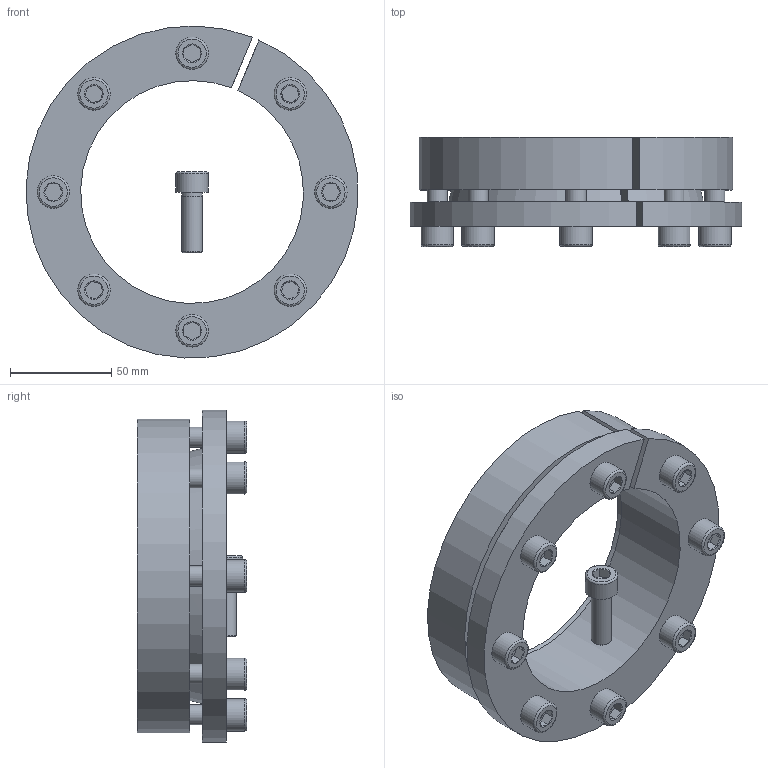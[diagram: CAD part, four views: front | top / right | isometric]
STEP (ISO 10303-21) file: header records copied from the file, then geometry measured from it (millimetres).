
FILE_DESCRIPTION( ( 'Unknown' ), '1' );
FILE_NAME( 'C:/Dokumente und Einstellungen/Sven/Desktop/homepage/cad - homepage/KBS16/KBS 16 - 110 x 155.stp', 'Unknown', ( 'Unknown' ), ( 'Unknown' ), 'XStep 1.0', 'Unknown', ' ' );
FILE_SCHEMA( ( 'automotive_design' ) );
Length unit declared in the file: millimetre
Products named in the file (3): Assem1; KBS 16 - 110 x 155; ISO EN DIN 4762 M10x30
Bounding box: 163.82 x 54 x 163.89 mm (x, y, z)
Volume: 778676.6 mm3; surface area: 181142.2 mm2
Topology: 11 solids, 11 shells, 281 faces, 557 edges, 334 vertices
Faces by surface type: plane 122, cylinder 74, cone 67, torus 18
Full cylindrical faces by diameter (mm): 9 x9, 10 x50, 16 x9
Entity records: 1798 total; most frequent: CARTESIAN_POINT 293, DIRECTION 272, ORIENTED_EDGE 194, AXIS2_PLACEMENT_3D 122, EDGE_LOOP 112, EDGE_CURVE 97, FACE_OUTER_BOUND 75, VERTEX_POINT 75
